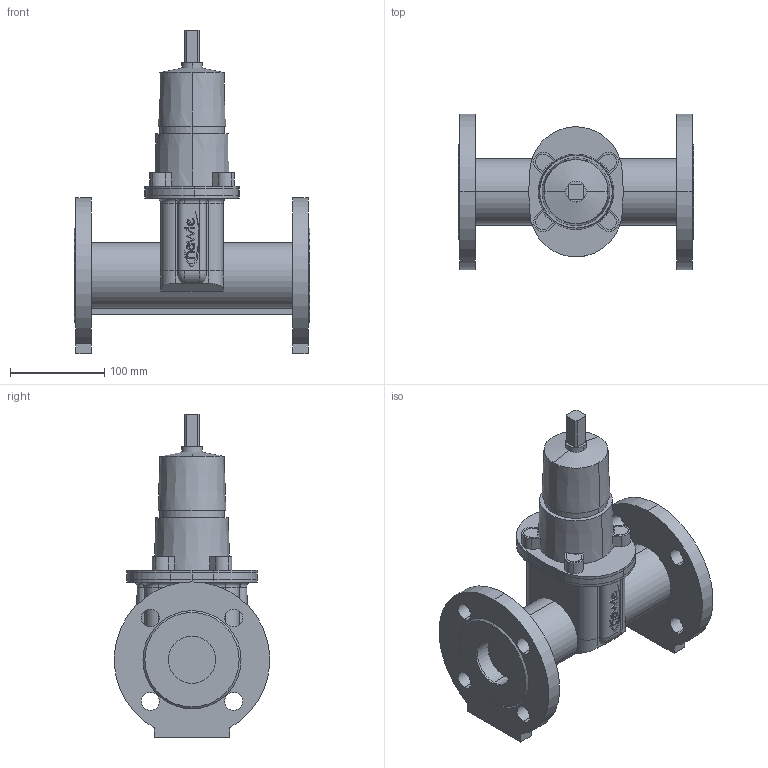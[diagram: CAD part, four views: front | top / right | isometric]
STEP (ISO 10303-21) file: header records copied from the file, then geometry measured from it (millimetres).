
FILE_DESCRIPTION(('STEP AP214'),'1');
FILE_NAME('S:/EK/USER/CAT6/3DHomepage/4700E2/4700E2-PN16-DN50.STP','2012-04-23T12:15:51',(' '),(' '),'Spatial InterOp 3D',' ',' ');
FILE_SCHEMA(('automotive_design'));
Length unit declared in the file: millimetre
Products named in the file (61): 3D-Objekt
Bounding box: 250 x 164.52 x 342.5 mm (x, y, z)
Volume: 2818466.7 mm3; surface area: 407919.3 mm2
Topology: 61 solids, 61 shells, 500 faces, 1128 edges, 752 vertices
Faces by surface type: plane 282, cylinder 196, torus 12, cone 10
Entity records: 19557 total; most frequent: DIRECTION 2694, CARTESIAN_POINT 2441, ORIENTED_EDGE 2256, EDGE_CURVE 1128, AXIS2_PLACEMENT_3D 1005, VERTEX_POINT 752, LINE 684, VECTOR 684
